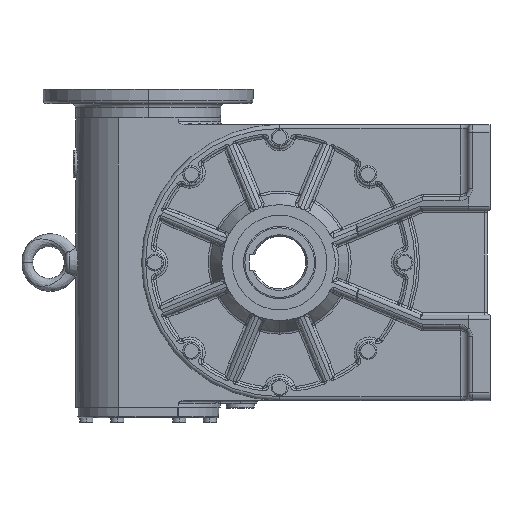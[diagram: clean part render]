
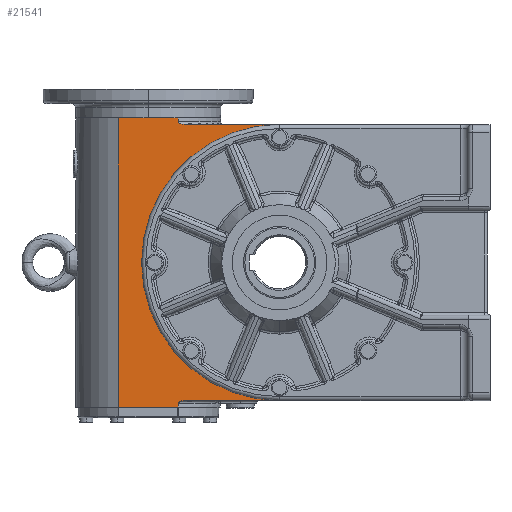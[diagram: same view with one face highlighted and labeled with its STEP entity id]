
A CAD part, left-side view. The second image highlights one B-rep face of the part: STEP entity #21541.
In plain terms, the highlighted planar face has unit normal (-1, 0, 0).
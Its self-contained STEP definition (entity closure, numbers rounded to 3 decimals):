
#5738 = CARTESIAN_POINT ( 'NONE',  ( -50., 72.632, -105. ) ) ;
#5739 = B_SPLINE_CURVE_WITH_KNOTS ( 'NONE', 3,
 ( #5773, #5772, #5771, #5770, #5769, #5768, #5767, #5766, #5765, #5764, #5763, #5762, #5761, #5760, #5759, #5758 ),
 .UNSPECIFIED., .F., .F.,
 ( 4, 2, 2, 2, 2, 2, 2, 4 ),
 ( 0., 0., 0.001, 0.001, 0.002, 0.003, 0.004, 0.005 ),
 .UNSPECIFIED. ) ;
#5746 = LINE ( 'NONE', #5818, #5817 ) ;
#5747 = CARTESIAN_POINT ( 'NONE',  ( -50., 122.913, -110. ) ) ;
#5748 = DIRECTION ( 'NONE',  ( 0., -1., 0. ) ) ;
#5749 = VECTOR ( 'NONE', #5748, 1000. ) ;
#5750 = CARTESIAN_POINT ( 'NONE',  ( -50., 122.913, -110. ) ) ;
#5751 = LINE ( 'NONE', #5750, #5749 ) ;
#5752 = CARTESIAN_POINT ( 'NONE',  ( -50., 77.087, -110. ) ) ;
#5754 = DIRECTION ( 'NONE',  ( 0., 0., -1. ) ) ;
#5755 = VECTOR ( 'NONE', #5754, 1000. ) ;
#5756 = CARTESIAN_POINT ( 'NONE',  ( -50., 77.087, 110. ) ) ;
#5757 = LINE ( 'NONE', #5756, #5755 ) ;
#5758 = CARTESIAN_POINT ( 'NONE',  ( -50., 72.632, -105. ) ) ;
#5759 = CARTESIAN_POINT ( 'NONE',  ( -50., 73.07, -105. ) ) ;
#5760 = CARTESIAN_POINT ( 'NONE',  ( -50., 73.502, -105.032 ) ) ;
#5761 = CARTESIAN_POINT ( 'NONE',  ( -50., 74.358, -105.159 ) ) ;
#5762 = CARTESIAN_POINT ( 'NONE',  ( -50., 74.783, -105.254 ) ) ;
#5763 = CARTESIAN_POINT ( 'NONE',  ( -50., 75.407, -105.459 ) ) ;
#5764 = CARTESIAN_POINT ( 'NONE',  ( -50., 75.611, -105.537 ) ) ;
#5765 = CARTESIAN_POINT ( 'NONE',  ( -50., 76.006, -105.719 ) ) ;
#5766 = CARTESIAN_POINT ( 'NONE',  ( -50., 76.198, -105.823 ) ) ;
#5767 = CARTESIAN_POINT ( 'NONE',  ( -50., 76.56, -106.073 ) ) ;
#5768 = CARTESIAN_POINT ( 'NONE',  ( -50., 76.727, -106.216 ) ) ;
#5769 = CARTESIAN_POINT ( 'NONE',  ( -50., 76.928, -106.48 ) ) ;
#5770 = CARTESIAN_POINT ( 'NONE',  ( -50., 76.984, -106.574 ) ) ;
#5771 = CARTESIAN_POINT ( 'NONE',  ( -50., 77.065, -106.781 ) ) ;
#5772 = CARTESIAN_POINT ( 'NONE',  ( -50., 77.087, -106.889 ) ) ;
#5773 = CARTESIAN_POINT ( 'NONE',  ( -50., 77.087, -107. ) ) ;
#5774 = DIRECTION ( 'NONE',  ( 0., 1., 0. ) ) ;
#5775 = VECTOR ( 'NONE', #5774, 1000. ) ;
#5776 = CARTESIAN_POINT ( 'NONE',  ( -50., 100., -105. ) ) ;
#5777 = LINE ( 'NONE', #5776, #5775 ) ;
#5785 = PLANE ( 'NONE',  #5851 ) ;
#5786 = CARTESIAN_POINT ( 'NONE',  ( -50., 0., 0. ) ) ;
#5787 = FACE_BOUND ( 'NONE', #21512, .T. ) ;
#5788 = FACE_OUTER_BOUND ( 'NONE', #21542, .T. ) ;
#5789 = CARTESIAN_POINT ( 'NONE',  ( -50., 72.632, 105. ) ) ;
#5790 = CARTESIAN_POINT ( 'NONE',  ( -50., 0., -105. ) ) ;
#5791 = CARTESIAN_POINT ( 'NONE',  ( -50., 77.087, 107. ) ) ;
#5792 = CARTESIAN_POINT ( 'NONE',  ( -50., 77.087, 106.776 ) ) ;
#5793 = CARTESIAN_POINT ( 'NONE',  ( -50., 76.994, 106.567 ) ) ;
#5794 = CARTESIAN_POINT ( 'NONE',  ( -50., 76.725, 106.214 ) ) ;
#5795 = CARTESIAN_POINT ( 'NONE',  ( -50., 76.558, 106.072 ) ) ;
#5796 = CARTESIAN_POINT ( 'NONE',  ( -50., 76.199, 105.824 ) ) ;
#5797 = CARTESIAN_POINT ( 'NONE',  ( -50., 76.005, 105.718 ) ) ;
#5798 = CARTESIAN_POINT ( 'NONE',  ( -50., 75.606, 105.535 ) ) ;
#5799 = CARTESIAN_POINT ( 'NONE',  ( -50., 75.4, 105.456 ) ) ;
#5800 = CARTESIAN_POINT ( 'NONE',  ( -50., 74.778, 105.253 ) ) ;
#5801 = CARTESIAN_POINT ( 'NONE',  ( -50., 74.356, 105.159 ) ) ;
#5802 = CARTESIAN_POINT ( 'NONE',  ( -50., 73.502, 105.032 ) ) ;
#5803 = CARTESIAN_POINT ( 'NONE',  ( -50., 73.07, 105. ) ) ;
#5804 = CARTESIAN_POINT ( 'NONE',  ( -50., 72.632, 105. ) ) ;
#5805 = CARTESIAN_POINT ( 'NONE',  ( -50., 0., 105. ) ) ;
#5806 = DIRECTION ( 'NONE',  ( 0., -1., 0. ) ) ;
#5807 = VECTOR ( 'NONE', #5806, 1000. ) ;
#5808 = CARTESIAN_POINT ( 'NONE',  ( -50., 100., 105. ) ) ;
#5809 = LINE ( 'NONE', #5808, #5807 ) ;
#5810 = B_SPLINE_CURVE_WITH_KNOTS ( 'NONE', 3,
 ( #5804, #5803, #5802, #5801, #5800, #5799, #5798, #5797, #5796, #5795, #5794, #5793, #5792, #5791 ),
 .UNSPECIFIED., .F., .F.,
 ( 4, 2, 2, 2, 2, 2, 4 ),
 ( 0., 0.001, 0.003, 0.003, 0.004, 0.005, 0.005 ),
 .UNSPECIFIED. ) ;
#5811 = DIRECTION ( 'NONE',  ( 0., 0., -1. ) ) ;
#5812 = VECTOR ( 'NONE', #5811, 1000. ) ;
#5813 = CARTESIAN_POINT ( 'NONE',  ( -50., 77.087, 110. ) ) ;
#5814 = LINE ( 'NONE', #5813, #5812 ) ;
#5815 = CARTESIAN_POINT ( 'NONE',  ( -50., 77.087, 107. ) ) ;
#5816 = DIRECTION ( 'NONE',  ( 0., 0., -1. ) ) ;
#5817 = VECTOR ( 'NONE', #5816, 1000. ) ;
#5818 = CARTESIAN_POINT ( 'NONE',  ( -50., 122.913, 110. ) ) ;
#5844 = DIRECTION ( 'NONE',  ( 0., 0., -1. ) ) ;
#5845 = DIRECTION ( 'NONE',  ( 1., 0., 0. ) ) ;
#5846 = CARTESIAN_POINT ( 'NONE',  ( -50., 0., 0. ) ) ;
#5847 = AXIS2_PLACEMENT_3D ( 'NONE', #5846, #5845, #5844 ) ;
#5848 = CIRCLE ( 'NONE', #5847, 105. ) ;
#5849 = DIRECTION ( 'NONE',  ( 0., 0., -1. ) ) ;
#5850 = DIRECTION ( 'NONE',  ( 1., 0., 0. ) ) ;
#5851 = AXIS2_PLACEMENT_3D ( 'NONE', #5786, #5850, #5849 ) ;
#5937 = CARTESIAN_POINT ( 'NONE',  ( -50., 77.087, -107. ) ) ;
#5940 = DIRECTION ( 'NONE',  ( 0., 0., -1. ) ) ;
#5941 = DIRECTION ( 'NONE',  ( -1., 0., 0. ) ) ;
#5942 = CARTESIAN_POINT ( 'NONE',  ( -50., 0., 0. ) ) ;
#5943 = AXIS2_PLACEMENT_3D ( 'NONE', #5942, #5941, #5940 ) ;
#5944 = CIRCLE ( 'NONE', #5943, 36. ) ;
#18665 = VERTEX_POINT ( 'NONE', #64410 ) ;
#18679 = EDGE_CURVE ( 'NONE', #18665, #18709, #64460, .T. ) ;
#18709 = VERTEX_POINT ( 'NONE', #64557 ) ;
#20121 = VERTEX_POINT ( 'NONE', #68623 ) ;
#20182 = VERTEX_POINT ( 'NONE', #68744 ) ;
#20233 = EDGE_CURVE ( 'NONE', #20121, #20182, #68826, .T. ) ;
#21512 = EDGE_LOOP ( 'NONE', ( #21536, #21594 ) ) ;
#21513 = ORIENTED_EDGE ( 'NONE', *, *, #21519, .F. ) ;
#21514 = ORIENTED_EDGE ( 'NONE', *, *, #21518, .F. ) ;
#21515 = EDGE_CURVE ( 'NONE', #21596, #21516, #5739, .T. ) ;
#21516 = VERTEX_POINT ( 'NONE', #5738 ) ;
#21517 = ORIENTED_EDGE ( 'NONE', *, *, #21515, .T. ) ;
#21518 = EDGE_CURVE ( 'NONE', #21539, #21516, #5777, .T. ) ;
#21519 = EDGE_CURVE ( 'NONE', #21596, #21522, #5757, .T. ) ;
#21520 = ORIENTED_EDGE ( 'NONE', *, *, #21523, .T. ) ;
#21522 = VERTEX_POINT ( 'NONE', #5752 ) ;
#21523 = EDGE_CURVE ( 'NONE', #21524, #21522, #5751, .T. ) ;
#21524 = VERTEX_POINT ( 'NONE', #5747 ) ;
#21525 = ORIENTED_EDGE ( 'NONE', *, *, #21526, .T. ) ;
#21526 = EDGE_CURVE ( 'NONE', #20121, #21524, #5746, .T. ) ;
#21528 = ORIENTED_EDGE ( 'NONE', *, *, #20233, .F. ) ;
#21529 = VERTEX_POINT ( 'NONE', #5815 ) ;
#21530 = ORIENTED_EDGE ( 'NONE', *, *, #21531, .F. ) ;
#21531 = EDGE_CURVE ( 'NONE', #20182, #21529, #5814, .T. ) ;
#21532 = ORIENTED_EDGE ( 'NONE', *, *, #21533, .T. ) ;
#21533 = EDGE_CURVE ( 'NONE', #21540, #21529, #5810, .T. ) ;
#21534 = ORIENTED_EDGE ( 'NONE', *, *, #21535, .F. ) ;
#21535 = EDGE_CURVE ( 'NONE', #21540, #21538, #5809, .T. ) ;
#21536 = ORIENTED_EDGE ( 'NONE', *, *, #21592, .F. ) ;
#21538 = VERTEX_POINT ( 'NONE', #5805 ) ;
#21539 = VERTEX_POINT ( 'NONE', #5790 ) ;
#21540 = VERTEX_POINT ( 'NONE', #5789 ) ;
#21541 = ADVANCED_FACE ( 'NONE', ( #5788, #5787 ), #5785, .F. ) ;
#21542 = EDGE_LOOP ( 'NONE', ( #21543, #21534, #21532, #21530, #21528, #21525, #21520, #21513, #21517, #21514 ) ) ;
#21543 = ORIENTED_EDGE ( 'NONE', *, *, #21544, .F. ) ;
#21544 = EDGE_CURVE ( 'NONE', #21538, #21539, #5848, .T. ) ;
#21592 = EDGE_CURVE ( 'NONE', #18709, #18665, #5944, .T. ) ;
#21594 = ORIENTED_EDGE ( 'NONE', *, *, #18679, .F. ) ;
#21596 = VERTEX_POINT ( 'NONE', #5937 ) ;
#64410 = CARTESIAN_POINT ( 'NONE',  ( -50., 0., 36. ) ) ;
#64457 = DIRECTION ( 'NONE',  ( 0., 0., -1. ) ) ;
#64458 = DIRECTION ( 'NONE',  ( -1., 0., 0. ) ) ;
#64459 = AXIS2_PLACEMENT_3D ( 'NONE', #64466, #64458, #64457 ) ;
#64460 = CIRCLE ( 'NONE', #64459, 36. ) ;
#64466 = CARTESIAN_POINT ( 'NONE',  ( -50., 0., 0. ) ) ;
#64557 = CARTESIAN_POINT ( 'NONE',  ( -50., 0., -36. ) ) ;
#68623 = CARTESIAN_POINT ( 'NONE',  ( -50., 122.913, 110. ) ) ;
#68744 = CARTESIAN_POINT ( 'NONE',  ( -50., 77.087, 110. ) ) ;
#68823 = DIRECTION ( 'NONE',  ( 0., -1., 0. ) ) ;
#68824 = VECTOR ( 'NONE', #68823, 1000. ) ;
#68825 = CARTESIAN_POINT ( 'NONE',  ( -50., 122.913, 110. ) ) ;
#68826 = LINE ( 'NONE', #68825, #68824 ) ;
